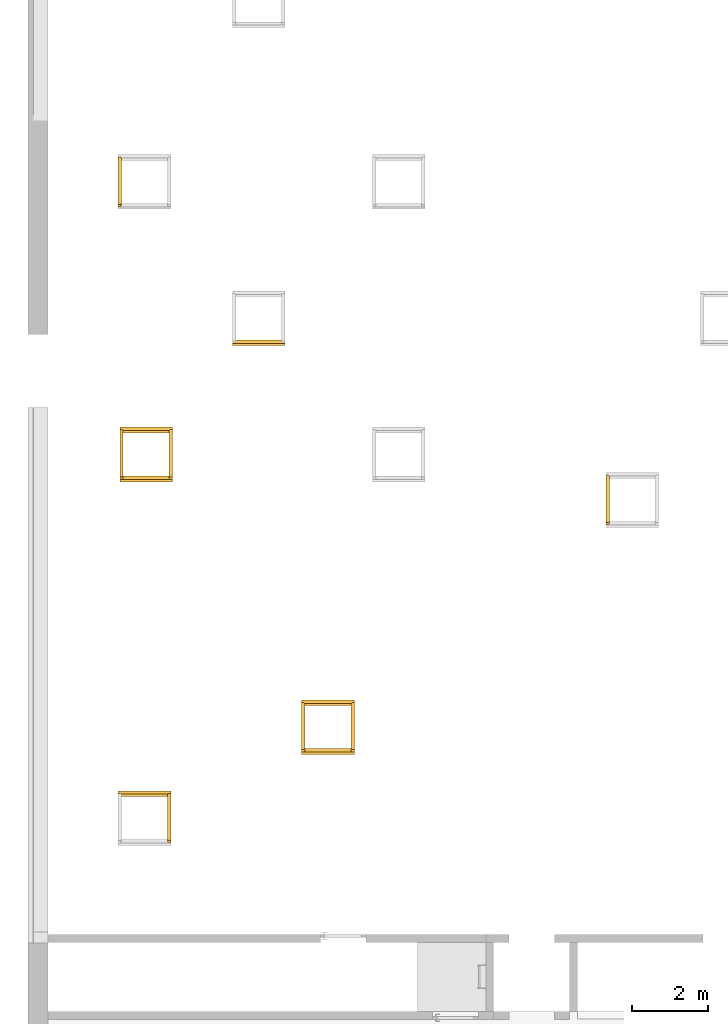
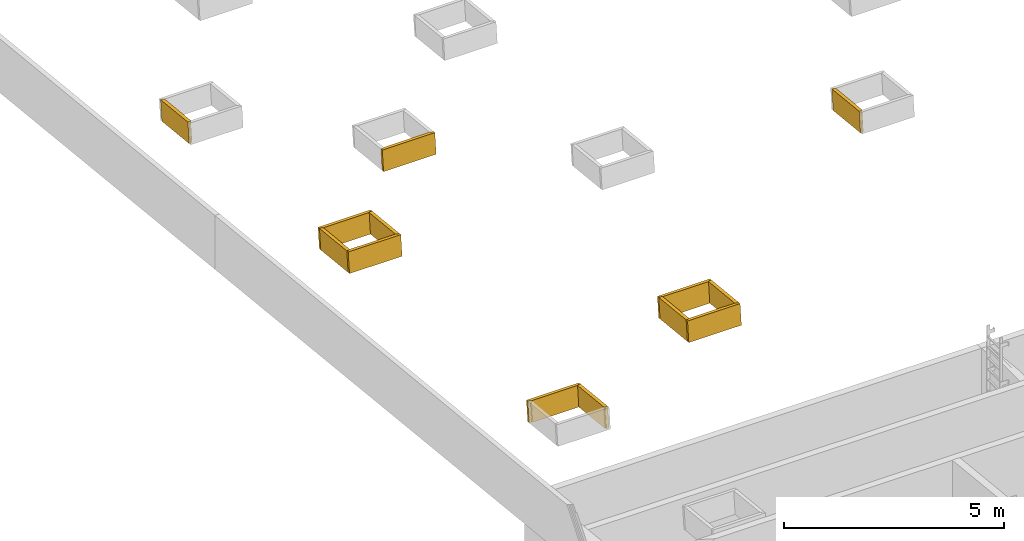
# One storey, part 12 of 23: 13 coverings.
"""IFC2X3 building model written with IfcOpenShell, lengths in millimetres."""

from ifc_helpers import new_model, entity, si_unit, converted_unit, derived_unit, money_unit, direction, frame, origin_with_axes, place, context, subcontext, project, spatial, faceted_brep, material, material_list, type_object, element, save


model = new_model("IFC2X3")

# Units and contexts
model_context = context("Model", 3, precision=0.01, world=origin_with_axes(), true_north=direction((0.0, 1.0)))
body_context = subcontext(model_context, "Body", "Model", "MODEL_VIEW")
ifc_project = project(units=[si_unit("LENGTHUNIT", "METRE", prefix="MILLI"), si_unit("AREAUNIT", "SQUARE_METRE"), si_unit("VOLUMEUNIT", "CUBIC_METRE"), converted_unit("PLANEANGLEUNIT", "DEGREE", entity("IfcPlaneAngleMeasure", 0.0174532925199), si_unit("PLANEANGLEUNIT", "RADIAN"), dimensions=[0, 0, 0, 0, 0, 0, 0]), si_unit("SOLIDANGLEUNIT", "STERADIAN"), money_unit("EUR"), converted_unit("TIMEUNIT", "Year", entity("IfcTimeMeasure", 31556926.0), si_unit("TIMEUNIT", "SECOND"), dimensions=[0, 0, 1, 0, 0, 0, 0]), si_unit("MASSUNIT", "GRAM", prefix="KILO"), si_unit("THERMODYNAMICTEMPERATUREUNIT", "DEGREE_CELSIUS"), si_unit("LUMINOUSINTENSITYUNIT", "LUMEN"), si_unit("ENERGYUNIT", "JOULE", prefix="MEGA"), derived_unit("THERMALCONDUCTANCEUNIT", [(si_unit("POWERUNIT", "WATT"), 1), (si_unit("LENGTHUNIT", "METRE"), -1), (si_unit("THERMODYNAMICTEMPERATUREUNIT", "KELVIN"), -1)]), derived_unit("SPECIFICHEATCAPACITYUNIT", [(si_unit("ENERGYUNIT", "JOULE"), 1), (si_unit("MASSUNIT", "GRAM", prefix="KILO"), -1), (si_unit("THERMODYNAMICTEMPERATUREUNIT", "KELVIN"), -1)]), derived_unit("MASSDENSITYUNIT", [(si_unit("MASSUNIT", "GRAM", prefix="KILO"), 1), (si_unit("VOLUMEUNIT", "CUBIC_METRE"), -1)])], contexts=[model_context])

# Site, building, storey
site_placement = place(None, origin_with_axes())
site = spatial("IfcSite", under=ifc_project, at=site_placement, Name="L.Koidula tn 11b", CompositionType="ELEMENT")
building_placement = place(site_placement, origin_with_axes())
building = spatial("IfcBuilding", under=site, at=building_placement, Name="Rakvere Riigigümnaasium", CompositionType="ELEMENT")
storey_placement = place(building_placement, frame((0.0, 0.0, 7440.0), z_axis=(0.0, 0.0, 1.0), x_axis=(1.0, 0.0, 0.0)))
storey = spatial("IfcBuildingStorey", under=building, at=storey_placement, Name="3.korrus +7,44", CompositionType="ELEMENT", Elevation=7440.0)

# Coverings
ifc_material_1 = material(Name="SKR-02_Kipsplaat")
ifc_material_2 = material(Name="mineraalvill+karkass")
ifc_material_list_1 = material_list([ifc_material_1, ifc_material_1, ifc_material_2])
covering_type = type_object("IfcCoveringType", Name="SA-2xkips 91", PredefinedType="NOTDEFINED")
covering_1_placement = place(storey_placement, frame((38632.9990049, 20943.9753896, 2489.35429556), z_axis=(0.0, 0.0, 1.0), x_axis=(-1.0, 0.0, 0.0)))
element("IfcCovering", 1, at=covering_1_placement, inside=storey, type_object=covering_type, material=ifc_material_list_1, Name="Ava-pinnakate", PredefinedType="NOTDEFINED", context=body_context, shape_type="Brep", body=[
    faceted_brep([(1212.48953029, -72.5719093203, 570.890941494), (-12.5103850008, -72.5719093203, 570.890941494), (-12.5019089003, -13.3389450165, 7.32693140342), (1212.49808691, -13.3389450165, 7.32693140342), (-12.5086060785, -60.1403856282, 572.197547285), (1212.49132611, -60.1403856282, 572.197547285), (-12.5001299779, -0.907421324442, 8.63353719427), (1212.49988274, -0.907421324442, 8.63353719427)], [[[0, 1, 2, 3]], [[4, 1, 0, 5]], [[1, 4, 6, 2]], [[7, 3, 2, 6]], [[5, 0, 3, 7]], [[4, 5, 7, 6]]]),
    faceted_brep([(1224.9877346, -85.0034330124, 569.584335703), (-25.0121640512, -85.0034330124, 569.584335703), (-25.0036879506, -25.7704687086, 6.02032561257), (1224.99629122, -25.7704687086, 6.02032561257), (-25.0103851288, -72.5719093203, 570.890941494), (1224.98953042, -72.5719093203, 570.890941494), (-25.0019090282, -13.3389450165, 7.32693140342), (1224.99808705, -13.3389450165, 7.32693140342)], [[[0, 1, 2, 3]], [[4, 1, 0, 5]], [[1, 4, 6, 2]], [[7, 3, 2, 6]], [[5, 0, 3, 7]], [[4, 5, 7, 6]]]),
    faceted_brep([(1290.97825335, -150.641878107, 562.685457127), (-91.0215574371, -150.641878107, 562.685457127), (-91.0130945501, -91.5012534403, 0.0), (1290.98679663, -91.5012534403, 0.0), (-91.0121647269, -85.0034330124, 569.584335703), (1290.98773529, -85.0034330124, 569.584335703), (-91.0036886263, -25.7704687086, 6.02032561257), (-91.011885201, -83.0500407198, 0.0), (1290.98801747, -83.0500407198, 0.0), (1290.99629191, -25.7704687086, 6.02032561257)], [[[0, 1, 2, 3]], [[4, 1, 0, 5]], [[1, 4, 6, 7, 2]], [[2, 7, 8, 3]], [[5, 0, 3, 8, 9]], [[4, 5, 9, 6]], [[9, 8, 7, 6]]]),
])
ifc_material_list_2 = material_list([ifc_material_2, ifc_material_1, ifc_material_1])
covering_2_placement = place(storey_placement, frame((38632.9990049, 20943.9753896, 2413.26633301), z_axis=(0.0, 0.0, 1.0), x_axis=(-0.000143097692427, -0.999999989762, 0.0)))
element("IfcCovering", 2, at=covering_2_placement, inside=storey, type_object=covering_type, material=ifc_material_list_2, Name="Ava-pinnakate", PredefinedType="NOTDEFINED", context=body_context, shape_type="Brep", body=[
    faceted_brep([(-85.0070113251, 25.0000001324, 645.67229826), (-85.0164557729, 91.0, 645.67229826), (-25.7834908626, 91.0, 82.1082881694), (-25.7740464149, 25.0000006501, 82.1082881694), (1158.1359848, 90.9999992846, 776.332883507), (1158.14542925, 25.0000000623, 776.332883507), (1217.36894971, 90.9999992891, 212.768873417), (1197.38312376, 90.9999989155, 210.668278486), (1192.46504578, 90.9999988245, 210.668278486), (1192.46504578, 90.9999988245, 210.151367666), (1192.46504578, 25.0000005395, 210.150375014), (1192.46504578, 25.0000005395, 210.668278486), (1197.39256821, 25.0000005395, 210.668278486), (1217.37839416, 25.0000005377, 212.768873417)], [[[0, 1, 2, 3]], [[4, 1, 0, 5]], [[1, 4, 6, 7, 8, 9, 2]], [[10, 3, 2, 9]], [[5, 0, 3, 10, 11, 12, 13]], [[4, 5, 13, 6]], [[13, 12, 7, 6]], [[8, 7, 12, 11]], [[11, 10, 9, 8]]]),
    faceted_brep([(-72.5736987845, 12.5, 646.97890405), (-72.5754875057, 25.0000001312, 646.97890405), (-13.3425225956, 25.0000006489, 83.4148939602), (-13.3407338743, 12.5, 83.4148939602), (1145.71390543, 25.000000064, 775.026277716), (1145.71569415, 12.5, 775.026277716), (1204.94687034, 25.0000005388, 211.462267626), (1197.39256821, 25.0000005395, 210.668278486), (1192.46504578, 25.0000005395, 210.668278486), (1192.46504578, 25.0000005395, 210.150375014), (1192.46504578, 12.5, 210.150187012), (1192.46504578, 12.5, 210.668278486), (1197.39435693, 12.5, 210.668278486), (1204.94865906, 12.5, 211.462267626)], [[[0, 1, 2, 3]], [[4, 1, 0, 5]], [[1, 4, 6, 7, 8, 9, 2]], [[10, 3, 2, 9]], [[5, 0, 3, 10, 11, 12, 13]], [[4, 5, 13, 6]], [[13, 12, 7, 6]], [[8, 7, 12, 11]], [[11, 10, 9, 8]]]),
    faceted_brep([(-60.140386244, 0.0, 648.285509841), (-60.1420013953, 12.5, 648.285528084), (-0.907464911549, 12.5, 84.721683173), (-0.907421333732, 0.0, 84.7214997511), (1133.28436687, 12.5, 773.719692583), (1133.28595574, 0.0, 773.719671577), (1192.46504578, 12.5, 210.668278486), (1192.46504578, 12.5, 210.150187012), (1192.46504578, 0.0, 210.14999901), (1192.46504578, 0.0, 210.668278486)], [[[0, 1, 2, 3]], [[4, 1, 0, 5]], [[1, 4, 6, 7, 2]], [[8, 3, 2, 7]], [[5, 0, 3, 8, 9]], [[4, 5, 9, 6]], [[9, 8, 7, 6]]]),
])
covering_3_placement = place(storey_placement, frame((43452.4027731, 23333.4434838, 2238.13466968), z_axis=(0.0, 0.0, 1.0), x_axis=(-1.0, 0.0, 0.0)))
element("IfcCovering", 3, at=covering_3_placement, inside=storey, type_object=covering_type, material=ifc_material_list_1, Name="Ava-pinnakate", PredefinedType="NOTDEFINED", context=body_context, shape_type="Brep", body=[
    faceted_brep([(1212.48952914, -72.5798524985, 570.966515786), (-12.5103861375, -72.5798524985, 570.966515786), (-12.5019100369, -13.3468881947, 7.40250569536), (1212.49808577, -13.3468881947, 7.40250569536), (-12.5086072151, -60.1483288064, 572.273121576), (1212.49132497, -60.1483288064, 572.273121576), (-12.5001311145, -0.9153645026, 8.7091114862), (1212.49988159, -0.9153645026, 8.7091114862)], [[[0, 1, 2, 3]], [[4, 1, 0, 5]], [[1, 4, 6, 2]], [[7, 3, 2, 6]], [[5, 0, 3, 7]], [[4, 5, 7, 6]]]),
    faceted_brep([(1224.98773345, -85.0113761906, 569.659909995), (-25.0121651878, -85.0113761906, 569.659909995), (-25.0036890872, -25.7784118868, 6.09589990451), (1224.99629008, -25.7784118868, 6.09589990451), (-25.0103862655, -72.5798524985, 570.966515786), (1224.98952927, -72.5798524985, 570.966515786), (-25.0019101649, -13.3468881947, 7.40250569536), (1224.9980859, -13.3468881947, 7.40250569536)], [[[0, 1, 2, 3]], [[4, 1, 0, 5]], [[1, 4, 6, 2]], [[7, 3, 2, 6]], [[5, 0, 3, 7]], [[4, 5, 7, 6]]]),
    faceted_brep([(1290.9782522, -150.649821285, 562.761031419), (-91.0215585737, -150.649821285, 562.761031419), (-91.0130945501, -91.5012534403, 0.0), (1290.98679663, -91.5012534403, 0.0), (-91.0121658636, -85.0113761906, 569.659909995), (1290.98773414, -85.0113761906, 569.659909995), (-91.003689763, -25.7784118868, 6.09589990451), (-91.0119892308, -83.7770252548, 0.0), (1290.98791245, -83.7770252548, 0.0), (1290.99629076, -25.7784118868, 6.09589990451)], [[[0, 1, 2, 3]], [[4, 1, 0, 5]], [[1, 4, 6, 7, 2]], [[2, 7, 8, 3]], [[5, 0, 3, 8, 9]], [[4, 5, 9, 6]], [[9, 8, 7, 6]]]),
])
covering_4_placement = place(storey_placement, frame((42252.2304994, 22140.9784502, 2372.71498561), z_axis=(0.0, 0.0, 1.0), x_axis=(1.0, 0.0, 0.0)))
element("IfcCovering", 4, at=covering_4_placement, inside=storey, type_object=covering_type, material=ifc_material_list_1, Name="Ava-pinnakate", PredefinedType="NOTDEFINED", context=body_context, shape_type="Brep", body=[
    faceted_brep([(-12.4914501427, 59.1870326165, 563.126967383), (1212.5101044, 59.1870326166, 563.126967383), (1212.50163487, 0.0, 0.0), (-12.5000001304, 0.0, 0.0), (1212.50832548, 46.7555056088, 564.433573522), (-12.4932459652, 46.7555056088, 564.433573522), (1212.49984938, -12.477458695, 0.869563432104), (1212.50103328, -4.2041152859, 0.0), (-12.5006074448, -4.2041152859, 0.0), (-12.5018025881, -12.477458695, 0.869563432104)], [[[0, 1, 2, 3]], [[4, 1, 0, 5]], [[1, 4, 6, 7, 2]], [[2, 7, 8, 3]], [[5, 0, 3, 8, 9]], [[4, 5, 9, 6]], [[9, 8, 7, 6]]]),
    faceted_brep([(-24.9932459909, 46.7555056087, 564.433573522), (1225.00832567, 46.7555056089, 564.433573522), (1224.99985005, -12.477458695, 0.869563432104), (-25.0018014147, -12.477458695, 0.869563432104), (1225.00654675, 34.3239819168, 565.740179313), (-24.9950418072, 34.3239819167, 565.740179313), (1224.99807112, -24.9089823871, 2.17616922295), (-25.0035972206, -24.9089823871, 2.17616922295)], [[[0, 1, 2, 3]], [[4, 1, 0, 5]], [[1, 4, 6, 2]], [[7, 3, 2, 6]], [[5, 0, 3, 7]], [[4, 5, 7, 6]]]),
    faceted_brep([(-90.9950426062, 34.3239819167, 565.740179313), (1291.00654666, 34.3239819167, 565.740179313), (1290.99807056, -24.9089823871, 2.17616922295), (-91.0035992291, -24.9089823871, 2.17616922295), (1290.99715395, -31.3144640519, 572.639057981), (-91.0045245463, -31.3144640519, 572.639057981), (1290.98867785, -90.5474274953, 9.07504780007), (-91.0130811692, -90.5474274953, 9.07504780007)], [[[0, 1, 2, 3]], [[4, 1, 0, 5]], [[1, 4, 6, 2]], [[7, 3, 2, 6]], [[5, 0, 3, 7]], [[4, 5, 7, 6]]]),
])
covering_5_placement = place(storey_placement, frame((42252.4027595, 23333.4434838, 2162.04670712), z_axis=(0.0, 0.0, 1.0), x_axis=(-0.000144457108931, -0.999999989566, 0.0)))
element("IfcCovering", 5, at=covering_5_placement, inside=storey, type_object=covering_type, material=ifc_material_list_1, Name="Ava-pinnakate", PredefinedType="NOTDEFINED", context=body_context, shape_type="Brep", body=[
    faceted_brep([(-60.1465237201, -12.5, 648.361084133), (-60.1483294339, -5.5872106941e-07, 648.361084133), (-0.915364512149, -8.50519654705e-09, 84.797074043), (-0.913558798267, -12.5, 84.797074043), (1133.27801278, -1.73962177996e-07, 773.795245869), (1133.27981849, -12.4999999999, 773.795245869), (1192.46504601, -1.1754579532e-06, 210.668278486), (1192.46504601, -1.1754579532e-06, 210.226408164), (1192.46684794, -12.4999999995, 210.226407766), (1192.46685173, -12.4999999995, 210.668278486)], [[[0, 1, 2, 3]], [[4, 1, 0, 5]], [[1, 4, 6, 7, 2]], [[8, 3, 2, 7]], [[5, 0, 3, 8, 9]], [[4, 5, 9, 6]], [[9, 8, 7, 6]]]),
    faceted_brep([(-72.5762418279, -25.0000006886, 647.054478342), (-72.5780475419, -12.5, 647.054478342), (-13.3450826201, -12.5, 83.4904682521), (-13.3432769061, -25.0000006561, 83.4904682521), (1145.71134563, -12.5, 775.101852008), (1145.71315134, -24.9999998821, 775.101852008), (1204.94431055, -12.5, 211.537841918), (1196.67096706, -12.5, 210.668278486), (1192.46504601, -12.5, 210.668278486), (1192.46504601, -12.5, 210.226218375), (1192.46504601, -24.9999985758, 210.226028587), (1192.46504601, -24.9999985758, 210.668278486), (1196.67277277, -24.9999985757, 210.668278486), (1204.94611627, -24.9999985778, 211.537841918)], [[[0, 1, 2, 3]], [[4, 1, 0, 5]], [[1, 4, 6, 7, 8, 9, 2]], [[10, 3, 2, 9]], [[5, 0, 3, 10, 11, 12, 13]], [[4, 5, 13, 6]], [[13, 12, 7, 6]], [[8, 7, 12, 11]], [[11, 10, 9, 8]]]),
    faceted_brep([(-84.9982314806, -91.0, 645.747872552), (-85.0077656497, -25.0000006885, 645.747872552), (-25.7748007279, -25.000000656, 82.1838624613), (-25.7652665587, -91.0, 82.1838624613), (1158.14467517, -24.9999998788, 776.408457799), (1158.15420934, -91.0, 776.408457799), (1217.37764009, -24.9999985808, 212.844447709), (1196.67277277, -24.9999985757, 210.668278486), (1192.46504601, -24.9999985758, 210.668278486), (1192.46504601, -24.9999985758, 210.226028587), (1192.46504601, -91.0, 210.225026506), (1192.46504601, -91.0, 210.668278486), (1196.68230694, -91.0, 210.668278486), (1217.38717426, -91.0, 212.844447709)], [[[0, 1, 2, 3]], [[4, 1, 0, 5]], [[1, 4, 6, 7, 8, 9, 2]], [[10, 3, 2, 9]], [[5, 0, 3, 10, 11, 12, 13]], [[4, 5, 13, 6]], [[13, 12, 7, 6]], [[8, 7, 12, 11]], [[11, 10, 9, 8]]]),
])
covering_6_placement = place(storey_placement, frame((43452.4027731, 23333.4434838, 2162.04670712), z_axis=(0.0, 0.0, 1.0), x_axis=(-0.000143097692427, -0.999999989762, 0.0)))
element("IfcCovering", 6, at=covering_6_placement, inside=storey, type_object=covering_type, material=ifc_material_list_2, Name="Ava-pinnakate", PredefinedType="NOTDEFINED", context=body_context, shape_type="Brep", body=[
    faceted_brep([(-85.0149545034, 25.0000001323, 645.747872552), (-85.0243989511, 91.0, 645.747872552), (-25.7914340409, 91.0, 82.1838624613), (-25.7819895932, 25.0000006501, 82.1838624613), (1158.12804162, 90.9999993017, 776.408457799), (1158.13748607, 25.0000000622, 776.408457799), (1217.36100653, 90.9999993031, 212.844447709), (1196.65613922, 90.9999989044, 210.668278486), (1192.46504578, 90.9999988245, 210.668278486), (1192.46504578, 90.9999988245, 210.227776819), (1192.46504578, 25.0000005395, 210.226784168), (1192.46504578, 25.0000005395, 210.668278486), (1196.66558367, 25.0000005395, 210.668278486), (1217.37045098, 25.0000005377, 212.844447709)], [[[0, 1, 2, 3]], [[4, 1, 0, 5]], [[1, 4, 6, 7, 8, 9, 2]], [[10, 3, 2, 9]], [[5, 0, 3, 10, 11, 12, 13]], [[4, 5, 13, 6]], [[13, 12, 7, 6]], [[8, 7, 12, 11]], [[11, 10, 9, 8]]]),
    faceted_brep([(-72.5816419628, 12.5, 647.054478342), (-72.583430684, 25.0000001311, 647.054478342), (-13.3504657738, 25.0000006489, 83.4904682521), (-13.3486770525, 12.5, 83.4904682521), (1145.70596225, 25.000000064, 775.101852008), (1145.70775097, 12.5, 775.101852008), (1204.93892716, 25.0000005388, 211.537841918), (1196.66558367, 25.0000005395, 210.668278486), (1192.46504578, 25.0000005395, 210.668278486), (1192.46504578, 25.0000005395, 210.226784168), (1192.46504578, 12.5, 210.226596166), (1192.46504578, 12.5, 210.668278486), (1196.66737239, 12.5, 210.668278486), (1204.94071588, 12.5, 211.537841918)], [[[0, 1, 2, 3]], [[4, 1, 0, 5]], [[1, 4, 6, 7, 8, 9, 2]], [[10, 3, 2, 9]], [[5, 0, 3, 10, 11, 12, 13]], [[4, 5, 13, 6]], [[13, 12, 7, 6]], [[8, 7, 12, 11]], [[11, 10, 9, 8]]]),
    faceted_brep([(-60.1483294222, 0.0, 648.361084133), (-60.1499447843, 12.5, 648.361102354), (-0.915408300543, 12.5, 84.7972574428), (-0.915364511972, 0.0, 84.797074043), (1133.27642348, 12.5, 773.795266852), (1133.27801256, 0.0, 773.795245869), (1192.46504578, 12.5, 210.668278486), (1192.46504578, 12.5, 210.226596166), (1192.46504578, 0.0, 210.226408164), (1192.46504578, 0.0, 210.668278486)], [[[0, 1, 2, 3]], [[4, 1, 0, 5]], [[1, 4, 6, 7, 2]], [[8, 3, 2, 7]], [[5, 0, 3, 8, 9]], [[4, 5, 9, 6]], [[9, 8, 7, 6]]]),
])
covering_7_placement = place(storey_placement, frame((50244.7853217, 29298.8225691, 1522.9300748), z_axis=(0.0, 0.0, 1.0), x_axis=(-0.000144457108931, -0.999999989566, 0.0)))
element("IfcCovering", 7, at=covering_7_placement, inside=storey, type_object=covering_type, material=ifc_material_list_1, Name="Ava-pinnakate", PredefinedType="NOTDEFINED", context=body_context, shape_type="Brep", body=[
    faceted_brep([(-61.4075107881, -12.5, 660.358574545), (-61.4093165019, -5.70430813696e-07, 660.358574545), (-2.17635158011, -2.0207835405e-08, 96.7945644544), (-2.17454586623, -12.5, 96.7945644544), (1132.01702564, -1.52610368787e-07, 785.792736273), (1132.01883135, -12.4999999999, 785.792736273), (1191.24999388, -1.15489484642e-06, 222.228726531), (1191.25179959, -12.4999999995, 222.228726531)], [[[0, 1, 2, 3]], [[4, 1, 0, 5]], [[1, 4, 6, 2]], [[7, 3, 2, 6]], [[5, 0, 3, 7]], [[4, 5, 7, 6]]]),
    faceted_brep([(-73.8372288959, -25.0000006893, 659.051968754), (-73.8390346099, -12.5, 659.051968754), (-14.606069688, -12.5, 95.4879586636), (-14.6042639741, -25.0000006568, 95.4879586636), (1144.45035856, -12.5, 787.099342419), (1144.45216428, -24.9999999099, 787.099342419), (1203.68332348, -12.5, 223.535332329), (1203.6851292, -24.9999986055, 223.535332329)], [[[0, 1, 2, 3]], [[4, 1, 0, 5]], [[1, 4, 6, 2]], [[7, 3, 2, 6]], [[5, 0, 3, 7]], [[4, 5, 7, 6]]]),
    faceted_brep([(-86.2592185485, -91.0, 657.745362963), (-86.2687527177, -25.0000006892, 657.745362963), (-27.0357877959, -25.0000006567, 94.1813528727), (-27.0262536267, -91.0, 94.1813528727), (1156.8836881, -24.9999999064, 788.40594821), (1156.89322227, -91.0, 788.40594821), (1216.11665302, -24.9999986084, 224.84193812), (1216.12618719, -91.0, 224.84193812)], [[[0, 1, 2, 3]], [[4, 1, 0, 5]], [[1, 4, 6, 2]], [[7, 3, 2, 6]], [[5, 0, 3, 7]], [[4, 5, 7, 6]]]),
])
covering_8_placement = place(storey_placement, frame((38673.054986, 30494.1893855, 1485.58636737), z_axis=(0.0, 0.0, 1.0), x_axis=(-1.0, 0.0, 0.0)))
element("IfcCovering", 8, at=covering_8_placement, inside=storey, type_object=covering_type, material=ifc_material_list_1, Name="Ava-pinnakate", PredefinedType="NOTDEFINED", context=body_context, shape_type="Brep", body=[
    faceted_brep([(1212.48953029, -72.5719082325, 570.890931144), (-12.5103850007, -72.5719082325, 570.890931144), (-12.5019089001, -13.3389439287, 7.32692105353), (1212.49808691, -13.3389439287, 7.32692105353), (-12.5086060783, -60.1403845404, 572.197536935), (1212.49132611, -60.1403845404, 572.197536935), (-12.5001299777, -0.907420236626, 8.63352684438), (1212.49988274, -0.907420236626, 8.63352684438)], [[[0, 1, 2, 3]], [[4, 1, 0, 5]], [[1, 4, 6, 2]], [[7, 3, 2, 6]], [[5, 0, 3, 7]], [[4, 5, 7, 6]]]),
    faceted_brep([(1224.9877346, -85.0034319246, 569.584325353), (-25.012164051, -85.0034319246, 569.584325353), (-25.0036879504, -25.7704676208, 6.02031526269), (1224.99629122, -25.7704676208, 6.02031526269), (-25.0103851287, -72.5719082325, 570.890931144), (1224.98953042, -72.5719082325, 570.890931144), (-25.0019090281, -13.3389439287, 7.32692105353), (1224.99808705, -13.3389439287, 7.32692105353)], [[[0, 1, 2, 3]], [[4, 1, 0, 5]], [[1, 4, 6, 2]], [[7, 3, 2, 6]], [[5, 0, 3, 7]], [[4, 5, 7, 6]]]),
    faceted_brep([(1290.97825335, -150.641877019, 562.685446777), (-91.0215574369, -150.641877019, 562.685446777), (-91.0130945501, -91.5012534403, 0.0), (1290.98679663, -91.5012534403, 0.0), (-91.0121647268, -85.0034319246, 569.584325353), (1290.98773529, -85.0034319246, 569.584325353), (-91.0036886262, -25.7704676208, 6.02031526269), (-91.0118851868, -83.0499411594, 0.0), (1290.98801748, -83.0499411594, 0.0), (1290.99629191, -25.7704676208, 6.02031526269)], [[[0, 1, 2, 3]], [[4, 1, 0, 5]], [[1, 4, 6, 7, 2]], [[2, 7, 8, 3]], [[5, 0, 3, 8, 9]], [[4, 5, 9, 6]], [[9, 8, 7, 6]]]),
])
covering_9_placement = place(storey_placement, frame((37472.8827123, 29301.7243519, 1620.1666833), z_axis=(0.0, 0.0, 1.0), x_axis=(1.0, 0.0, 0.0)))
element("IfcCovering", 9, at=covering_9_placement, inside=storey, type_object=covering_type, material=ifc_material_list_1, Name="Ava-pinnakate", PredefinedType="NOTDEFINED", context=body_context, shape_type="Brep", body=[
    faceted_brep([(-12.4914512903, 59.1790883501, 563.051382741), (1212.51010327, 59.1790883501, 563.051382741), (1212.50163487, 0.0, 0.0), (-12.5000001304, 0.0, 0.0), (1212.50832434, 46.7475613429, 564.357988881), (-12.4932471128, 46.7475613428, 564.357988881), (1212.49984824, -12.485402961, 0.793978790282), (1212.50092923, -4.9311993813, 0.0), (-12.5007124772, -4.9311993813, 0.0), (-12.5018037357, -12.485402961, 0.793978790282)], [[[0, 1, 2, 3]], [[4, 1, 0, 5]], [[1, 4, 6, 7, 2]], [[2, 7, 8, 3]], [[5, 0, 3, 8, 9]], [[4, 5, 9, 6]], [[9, 8, 7, 6]]]),
    faceted_brep([(-24.9932471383, 46.7475613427, 564.357988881), (1225.00832453, 46.7475613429, 564.357988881), (1224.99984891, -12.485402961, 0.793978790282), (-25.0018025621, -12.485402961, 0.793978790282), (1225.00654561, 34.3160376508, 565.664594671), (-24.9950429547, 34.3160376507, 565.664594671), (1224.99806998, -24.9169266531, 2.10058458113), (-25.003598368, -24.9169266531, 2.10058458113)], [[[0, 1, 2, 3]], [[4, 1, 0, 5]], [[1, 4, 6, 2]], [[7, 3, 2, 6]], [[5, 0, 3, 7]], [[4, 5, 7, 6]]]),
    faceted_brep([(-90.9950437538, 34.3160376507, 565.664594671), (1291.00654549, 34.3160376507, 565.664594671), (1290.9980694, -24.9169266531, 2.10058458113), (-91.0036003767, -24.9169266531, 2.10058458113), (1290.99715279, -31.3224083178, 572.563473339), (-91.0045256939, -31.3224083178, 572.563473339), (1290.9886767, -90.5553717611, 8.99946315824), (-91.0130823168, -90.5553717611, 8.99946315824)], [[[0, 1, 2, 3]], [[4, 1, 0, 5]], [[1, 4, 6, 2]], [[7, 3, 2, 6]], [[5, 0, 3, 7]], [[4, 5, 7, 6]]]),
])
covering_10_placement = place(storey_placement, frame((37473.0549724, 30494.1893855, 1409.49840481), z_axis=(0.0, 0.0, 1.0), x_axis=(-0.000144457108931, -0.999999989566, 0.0)))
element("IfcCovering", 10, at=covering_10_placement, inside=storey, type_object=covering_type, material=ifc_material_list_1, Name="Ava-pinnakate", PredefinedType="NOTDEFINED", context=body_context, shape_type="Brep", body=[
    faceted_brep([(-60.138579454, -12.5, 648.285499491), (-60.1403851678, -5.58635804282e-07, 648.285499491), (-0.90742024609, -8.42703684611e-09, 84.7214894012), (-0.905614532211, -12.5, 84.7214894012), (1133.28595705, -1.74082970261e-07, 773.719661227), (1133.28776276, -12.4999999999, 773.719661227), (1192.46504601, -1.1754579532e-06, 210.668278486), (1192.46504601, -1.1754579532e-06, 210.149988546), (1192.46684729, -12.4999999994, 210.149988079), (1192.46685173, -12.4999999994, 210.668278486)], [[[0, 1, 2, 3]], [[4, 1, 0, 5]], [[1, 4, 6, 7, 2]], [[8, 3, 2, 7]], [[5, 0, 3, 8, 9]], [[4, 5, 9, 6]], [[9, 8, 7, 6]]]),
    faceted_brep([(-72.5682975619, -25.0000006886, 646.978893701), (-72.5701032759, -12.5, 646.978893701), (-13.337138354, -12.5, 83.4148836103), (-13.33533264, -25.0000006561, 83.4148836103), (1145.7192899, -12.5, 775.026267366), (1145.72109561, -24.9999998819, 775.026267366), (1204.95225482, -12.5, 211.462257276), (1197.39805116, -12.5, 210.668278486), (1192.46504601, -12.5, 210.668278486), (1192.46504601, -12.5, 210.149798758), (1192.46504601, -24.9999985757, 210.149608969), (1192.46504601, -24.9999985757, 210.668278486), (1197.39985687, -24.9999985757, 210.668278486), (1204.95406053, -24.9999985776, 211.462257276)], [[[0, 1, 2, 3]], [[4, 1, 0, 5]], [[1, 4, 6, 7, 8, 9, 2]], [[10, 3, 2, 9]], [[5, 0, 3, 10, 11, 12, 13]], [[4, 5, 13, 6]], [[13, 12, 7, 6]], [[8, 7, 12, 11]], [[11, 10, 9, 8]]]),
    faceted_brep([(-84.9902872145, -91.0, 645.67228791), (-84.9998213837, -25.0000006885, 645.67228791), (-25.7668564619, -25.000000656, 82.1082778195), (-25.7573222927, -91.0, 82.1082778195), (1158.15261943, -24.9999998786, 776.332873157), (1158.1621536, -91.0, 776.332873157), (1217.38558435, -24.9999985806, 212.768863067), (1197.39985687, -24.9999985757, 210.668278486), (1192.46504601, -24.9999985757, 210.668278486), (1192.46504601, -24.9999985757, 210.149608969), (1192.46504601, -91.0, 210.148606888), (1192.46504601, -91.0, 210.668278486), (1197.40939104, -91.0, 210.668278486), (1217.39511852, -91.0, 212.768863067)], [[[0, 1, 2, 3]], [[4, 1, 0, 5]], [[1, 4, 6, 7, 8, 9, 2]], [[10, 3, 2, 9]], [[5, 0, 3, 10, 11, 12, 13]], [[4, 5, 13, 6]], [[13, 12, 7, 6]], [[8, 7, 12, 11]], [[11, 10, 9, 8]]]),
])
covering_11_placement = place(storey_placement, frame((38673.054986, 30494.1893855, 1409.49840481), z_axis=(0.0, 0.0, 1.0), x_axis=(-0.000143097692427, -0.999999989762, 0.0)))
element("IfcCovering", 11, at=covering_11_placement, inside=storey, type_object=covering_type, material=ifc_material_list_2, Name="Ava-pinnakate", PredefinedType="NOTDEFINED", context=body_context, shape_type="Brep", body=[
    faceted_brep([(-85.0070102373, 25.0000001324, 645.67228791), (-85.0164546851, 91.0, 645.67228791), (-25.7834897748, 91.0, 82.1082778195), (-25.7740453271, 25.0000006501, 82.1082778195), (1158.13598589, 90.9999992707, 776.332873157), (1158.14543034, 25.0000000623, 776.332873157), (1217.3689508, 90.9999992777, 212.768863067), (1197.38322332, 90.9999989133, 210.668278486), (1192.46504578, 90.9999988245, 210.668278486), (1192.46504578, 90.9999988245, 210.151357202), (1192.46504578, 25.0000005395, 210.15036455), (1192.46504578, 25.0000005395, 210.668278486), (1197.39266777, 25.0000005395, 210.668278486), (1217.37839525, 25.0000005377, 212.768863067)], [[[0, 1, 2, 3]], [[4, 1, 0, 5]], [[1, 4, 6, 7, 8, 9, 2]], [[10, 3, 2, 9]], [[5, 0, 3, 10, 11, 12, 13]], [[4, 5, 13, 6]], [[13, 12, 7, 6]], [[8, 7, 12, 11]], [[11, 10, 9, 8]]]),
    faceted_brep([(-72.5736976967, 12.5, 646.978893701), (-72.5754864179, 25.0000001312, 646.978893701), (-13.3425215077, 25.0000006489, 83.4148836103), (-13.3407327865, 12.5, 83.4148836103), (1145.71390652, 25.000000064, 775.026267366), (1145.71569524, 12.5, 775.026267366), (1204.94687143, 25.0000005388, 211.462257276), (1197.39266777, 25.0000005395, 210.668278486), (1192.46504578, 25.0000005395, 210.668278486), (1192.46504578, 25.0000005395, 210.15036455), (1192.46504578, 12.5, 210.150176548), (1192.46504578, 12.5, 210.668278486), (1197.39445649, 12.5, 210.668278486), (1204.94866015, 12.5, 211.462257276)], [[[0, 1, 2, 3]], [[4, 1, 0, 5]], [[1, 4, 6, 7, 8, 9, 2]], [[10, 3, 2, 9]], [[5, 0, 3, 10, 11, 12, 13]], [[4, 5, 13, 6]], [[13, 12, 7, 6]], [[8, 7, 12, 11]], [[11, 10, 9, 8]]]),
    faceted_brep([(-60.1403851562, 0.0, 648.285499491), (-60.1420003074, 12.5, 648.285517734), (-0.907463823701, 12.5, 84.7216728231), (-0.907420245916, 0.0, 84.7214894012), (1133.28436796, 12.5, 773.719682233), (1133.28595682, 0.0, 773.719661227), (1192.46504578, 12.5, 210.668278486), (1192.46504578, 12.5, 210.150176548), (1192.46504578, 0.0, 210.149988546), (1192.46504578, 0.0, 210.668278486)], [[[0, 1, 2, 3]], [[4, 1, 0, 5]], [[1, 4, 6, 7, 2]], [[8, 3, 2, 7]], [[5, 0, 3, 8, 9]], [[4, 5, 9, 6]], [[9, 8, 7, 6]]]),
])
covering_12_placement = place(storey_placement, frame((40434.5304352, 32881.8433538, 1243.83501681), z_axis=(0.0, 0.0, 1.0), x_axis=(1.0, 0.0, 0.0)))
element("IfcCovering", 12, at=covering_12_placement, inside=storey, type_object=covering_type, material=ifc_material_list_1, Name="Ava-pinnakate", PredefinedType="NOTDEFINED", context=body_context, shape_type="Brep", body=[
    faceted_brep([(-12.4914505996, 59.1838699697, 563.09687681), (1212.51010395, 59.1838699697, 563.09687681), (1212.50163487, 0.0, 0.0), (-12.5000001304, 0.0, 0.0), (1212.50832503, 46.7523429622, 564.40348295), (-12.4932464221, 46.7523429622, 564.40348295), (1212.49984893, -12.4806213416, 0.839472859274), (1212.50099185, -4.49357060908, 0.0), (-12.5006492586, -4.49357060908, 0.0), (-12.5018030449, -12.4806213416, 0.839472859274)], [[[0, 1, 2, 3]], [[4, 1, 0, 5]], [[1, 4, 6, 7, 2]], [[2, 7, 8, 3]], [[5, 0, 3, 8, 9]], [[4, 5, 9, 6]], [[9, 8, 7, 6]]]),
    faceted_brep([(-24.9932464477, 46.7523429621, 564.40348295), (1225.00832522, 46.7523429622, 564.40348295), (1224.99984959, -12.4806213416, 0.839472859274), (-25.0018018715, -12.4806213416, 0.839472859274), (1225.00654629, 34.3208192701, 565.71008874), (-24.995042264, 34.3208192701, 565.71008874), (1224.99807067, -24.9121450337, 2.14607865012), (-25.0035976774, -24.9121450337, 2.14607865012)], [[[0, 1, 2, 3]], [[4, 1, 0, 5]], [[1, 4, 6, 2]], [[7, 3, 2, 6]], [[5, 0, 3, 7]], [[4, 5, 7, 6]]]),
    faceted_brep([(-90.9950430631, 34.32081927, 565.71008874), (1291.00654622, 34.32081927, 565.71008874), (1290.99807012, -24.9121450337, 2.14607865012), (-91.003599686, -24.9121450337, 2.14607865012), (1290.99715351, -31.3176266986, 572.608967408), (-91.0045250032, -31.3176266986, 572.608967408), (1290.98867741, -90.5505901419, 9.04495722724), (-91.0130816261, -90.5505901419, 9.04495722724)], [[[0, 1, 2, 3]], [[4, 1, 0, 5]], [[1, 4, 6, 2]], [[7, 3, 2, 6]], [[5, 0, 3, 7]], [[4, 5, 7, 6]]]),
])
covering_13_placement = place(storey_placement, frame((37432.9795352, 37654.3237413, 656.937966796), z_axis=(0.0, 0.0, 1.0), x_axis=(-0.000144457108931, -0.999999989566, 0.0)))
element("IfcCovering", 13, at=covering_13_placement, inside=storey, type_object=covering_type, material=ifc_material_list_1, Name="Ava-pinnakate", PredefinedType="NOTDEFINED", context=body_context, shape_type="Brep", body=[
    faceted_brep([(-60.1385786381, -12.5, 648.285491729), (-60.1403843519, -5.58635804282e-07, 648.285491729), (-0.907419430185, -8.41993141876e-09, 84.7214816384), (-0.905613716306, -12.5, 84.7214816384), (1133.28595786, -1.74090075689e-07, 773.719653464), (1133.28776358, -12.4999999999, 773.719653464), (1192.46504601, -1.1754579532e-06, 210.668278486), (1192.46504601, -1.1754579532e-06, 210.149980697), (1192.46684729, -12.4999999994, 210.14998023), (1192.46685173, -12.4999999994, 210.668278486)], [[[0, 1, 2, 3]], [[4, 1, 0, 5]], [[1, 4, 6, 7, 2]], [[8, 3, 2, 7]], [[5, 0, 3, 8, 9]], [[4, 5, 9, 6]], [[9, 8, 7, 6]]]),
    faceted_brep([(-72.568296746, -25.0000006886, 646.978885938), (-72.5701024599, -12.5, 646.978885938), (-13.3371375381, -12.5, 83.4148758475), (-13.3353318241, -25.0000006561, 83.4148758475), (1145.71929071, -12.5, 775.026259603), (1145.72109643, -24.9999998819, 775.026259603), (1204.95225563, -12.5, 211.462249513), (1197.39812583, -12.5, 210.668278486), (1192.46504601, -12.5, 210.668278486), (1192.46504601, -12.5, 210.149790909), (1192.46504601, -24.9999985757, 210.149601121), (1192.46504601, -24.9999985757, 210.668278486), (1197.39993155, -24.9999985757, 210.668278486), (1204.95406135, -24.9999985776, 211.462249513)], [[[0, 1, 2, 3]], [[4, 1, 0, 5]], [[1, 4, 6, 7, 8, 9, 2]], [[10, 3, 2, 9]], [[5, 0, 3, 10, 11, 12, 13]], [[4, 5, 13, 6]], [[13, 12, 7, 6]], [[8, 7, 12, 11]], [[11, 10, 9, 8]]]),
    faceted_brep([(-84.9902863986, -91.0, 645.672280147), (-84.9998205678, -25.0000006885, 645.672280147), (-25.766855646, -25.000000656, 82.1082700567), (-25.7573214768, -91.0, 82.1082700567), (1158.15262025, -24.9999998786, 776.332865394), (1158.16215442, -91.0, 776.332865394), (1217.38558517, -24.9999985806, 212.768855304), (1197.39993155, -24.9999985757, 210.668278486), (1192.46504601, -24.9999985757, 210.668278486), (1192.46504601, -24.9999985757, 210.149601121), (1192.46504601, -91.0, 210.148599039), (1192.46504601, -91.0, 210.668278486), (1197.40946572, -91.0, 210.668278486), (1217.39511934, -91.0, 212.768855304)], [[[0, 1, 2, 3]], [[4, 1, 0, 5]], [[1, 4, 6, 7, 8, 9, 2]], [[10, 3, 2, 9]], [[5, 0, 3, 10, 11, 12, 13]], [[4, 5, 13, 6]], [[13, 12, 7, 6]], [[8, 7, 12, 11]], [[11, 10, 9, 8]]]),
])

save(model, "model.ifc")
